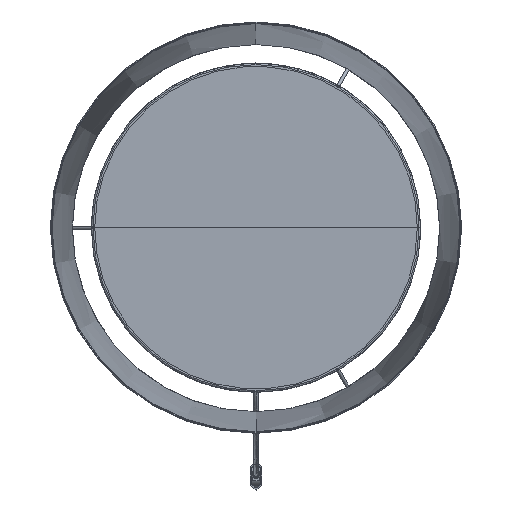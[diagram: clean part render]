
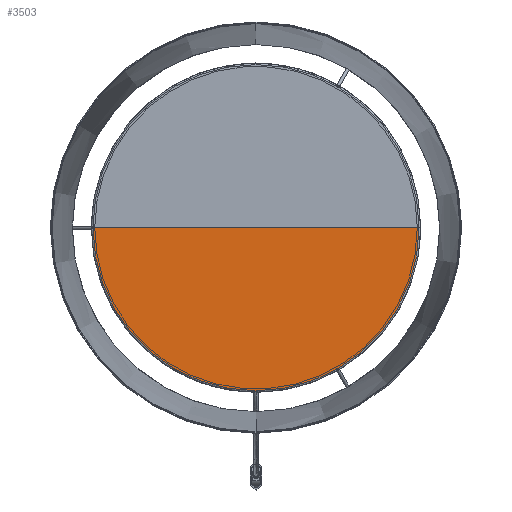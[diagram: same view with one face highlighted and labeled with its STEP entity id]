
A CAD part, top view. The second image highlights one B-rep face of the part: STEP entity #3503.
In plain terms, the highlighted planar face has unit normal (0, 0, 1) as drawn and (0, 0, -1) by its records, which use the part's own axes.
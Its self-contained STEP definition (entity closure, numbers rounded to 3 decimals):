
#243=CIRCLE('',#3884,198.182);
#498=LINE('',#9918,#724);
#724=VECTOR('',#4833,304.8);
#910=PLANE('',#3889);
#1120=FACE_OUTER_BOUND('',#1349,.T.);
#1349=EDGE_LOOP('',(#3212,#3213));
#1771=VERTEX_POINT('',#9783);
#1772=VERTEX_POINT('',#9784);
#2259=EDGE_CURVE('',#1772,#1771,#243,.T.);
#2262=EDGE_CURVE('',#1771,#1772,#498,.T.);
#3212=ORIENTED_EDGE('',*,*,#2262,.T.);
#3213=ORIENTED_EDGE('',*,*,#2259,.T.);
#3503=ADVANCED_FACE('',(#1120),#910,.T.);
#3884=AXIS2_PLACEMENT_3D('',#9912,#4822,#4823);
#3889=AXIS2_PLACEMENT_3D('',#9919,#4834,#4835);
#4822=DIRECTION('center_axis',(0.,0.,-1.));
#4823=DIRECTION('ref_axis',(-1.,0.,0.));
#4833=DIRECTION('',(-1.,0.,0.));
#4834=DIRECTION('center_axis',(0.,0.,-1.));
#4835=DIRECTION('ref_axis',(-1.,0.,0.));
#9783=CARTESIAN_POINT('',(198.182,0.,27.771));
#9784=CARTESIAN_POINT('',(-198.182,0.,27.771));
#9912=CARTESIAN_POINT('Origin',(0.,0.,27.771));
#9918=CARTESIAN_POINT('',(198.182,0.,27.771));
#9919=CARTESIAN_POINT('Origin',(0.,0.,27.771));
